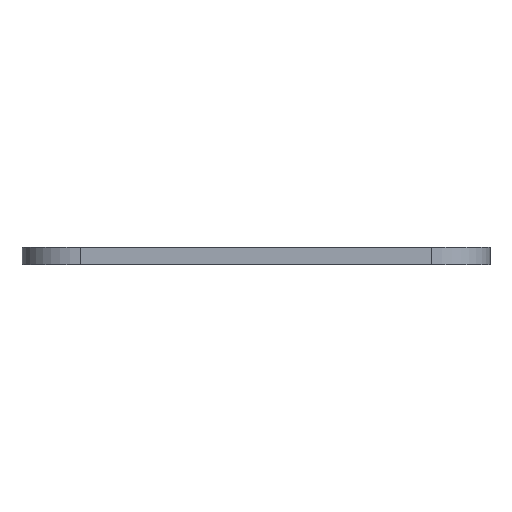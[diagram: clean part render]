
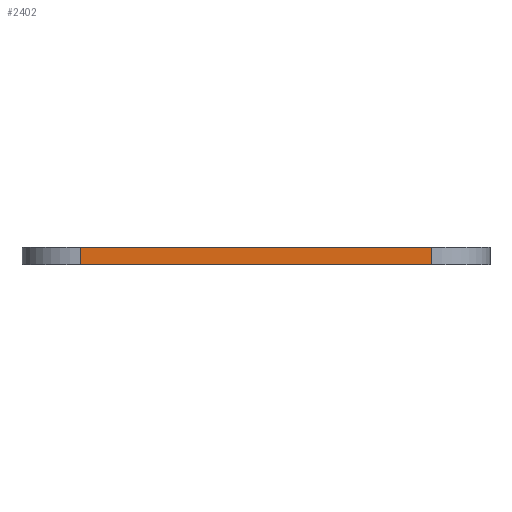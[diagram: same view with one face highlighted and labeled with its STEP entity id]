
A CAD part, front view. The second image highlights one B-rep face of the part: STEP entity #2402.
In plain terms, the highlighted planar face has unit normal (0, -1, 0).
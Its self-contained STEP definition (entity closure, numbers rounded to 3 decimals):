
#163 = VERTEX_POINT('',#164);
#164 = CARTESIAN_POINT('',(71.,-105.,0.));
#171 = EDGE_CURVE('',#172,#163,#174,.T.);
#172 = VERTEX_POINT('',#173);
#173 = CARTESIAN_POINT('',(101.,-105.,0.));
#174 = LINE('',#175,#176);
#175 = CARTESIAN_POINT('',(101.,-105.,0.));
#176 = VECTOR('',#177,1.);
#177 = DIRECTION('',(-1.,0.,0.));
#1269 = VERTEX_POINT('',#1270);
#1270 = CARTESIAN_POINT('',(71.,-105.,1.51));
#1277 = EDGE_CURVE('',#1278,#1269,#1280,.T.);
#1278 = VERTEX_POINT('',#1279);
#1279 = CARTESIAN_POINT('',(101.,-105.,1.51));
#1280 = LINE('',#1281,#1282);
#1281 = CARTESIAN_POINT('',(101.,-105.,1.51));
#1282 = VECTOR('',#1283,1.);
#1283 = DIRECTION('',(-1.,0.,0.));
#2374 = EDGE_CURVE('',#172,#1278,#2375,.T.);
#2375 = LINE('',#2376,#2377);
#2376 = CARTESIAN_POINT('',(101.,-105.,0.));
#2377 = VECTOR('',#2378,1.);
#2378 = DIRECTION('',(0.,0.,1.));
#2402 = ADVANCED_FACE('',(#2403),#2414,.T.);
#2403 = FACE_BOUND('',#2404,.T.);
#2404 = EDGE_LOOP('',(#2405,#2406,#2407,#2413));
#2405 = ORIENTED_EDGE('',*,*,#2374,.T.);
#2406 = ORIENTED_EDGE('',*,*,#1277,.T.);
#2407 = ORIENTED_EDGE('',*,*,#2408,.F.);
#2408 = EDGE_CURVE('',#163,#1269,#2409,.T.);
#2409 = LINE('',#2410,#2411);
#2410 = CARTESIAN_POINT('',(71.,-105.,0.));
#2411 = VECTOR('',#2412,1.);
#2412 = DIRECTION('',(0.,0.,1.));
#2413 = ORIENTED_EDGE('',*,*,#171,.F.);
#2414 = PLANE('',#2415);
#2415 = AXIS2_PLACEMENT_3D('',#2416,#2417,#2418);
#2416 = CARTESIAN_POINT('',(101.,-105.,0.));
#2417 = DIRECTION('',(0.,-1.,0.));
#2418 = DIRECTION('',(-1.,0.,0.));
